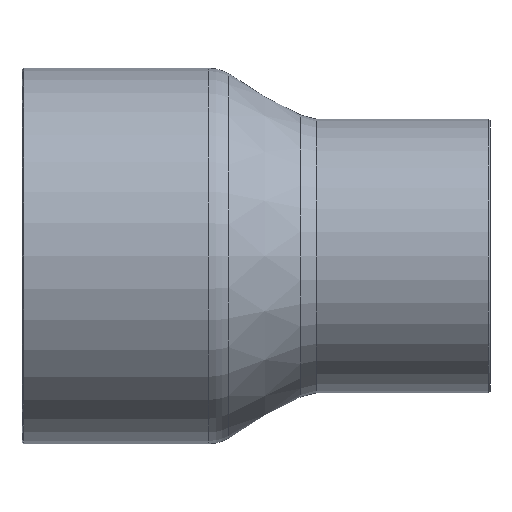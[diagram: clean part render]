
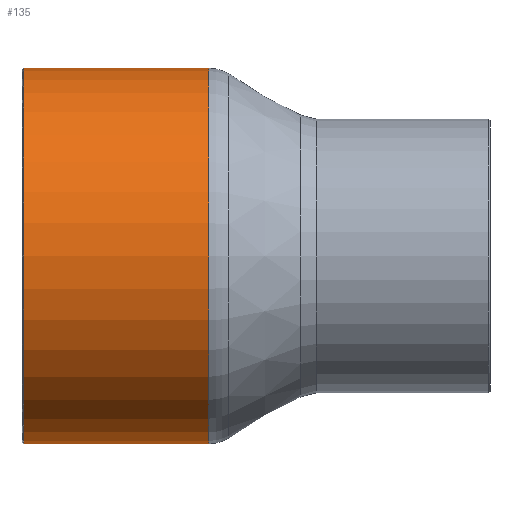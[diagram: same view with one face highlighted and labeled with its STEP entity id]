
A CAD part, front view. The second image highlights one B-rep face of the part: STEP entity #135.
In plain terms, the highlighted cylindrical face has radius 23.427 mm (diameter 46.855 mm), a full revolution.
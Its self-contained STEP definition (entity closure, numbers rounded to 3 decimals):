
#84=CARTESIAN_POINT('',(-39.,23.427,0.));
#85=VERTEX_POINT('',#84);
#86=CARTESIAN_POINT('',(-39.,0.0,0.0));
#87=DIRECTION('',(-1.0,0.0,0.0));
#88=DIRECTION('',(0.0,-1.0,0.0));
#89=AXIS2_PLACEMENT_3D('',#86,#87,#88);
#90=CIRCLE('',#89,23.427);
#91=EDGE_CURVE('',#85,#85,#90,.T.);
#116=CARTESIAN_POINT('',(-27.55,0.0,0.0));
#117=DIRECTION('',(1.0,0.0,0.0));
#118=DIRECTION('',(0.0,1.0,0.0));
#119=AXIS2_PLACEMENT_3D('',#116,#117,#118);
#120=CYLINDRICAL_SURFACE('',#119,23.427);
#121=CARTESIAN_POINT('',(-15.9,23.427,0.0));
#122=VERTEX_POINT('',#121);
#123=CARTESIAN_POINT('',(-15.9,0.0,0.0));
#124=DIRECTION('',(1.0,0.0,0.0));
#125=DIRECTION('',(0.0,1.0,0.0));
#126=AXIS2_PLACEMENT_3D('',#123,#124,#125);
#127=CIRCLE('',#126,23.427);
#128=EDGE_CURVE('',#122,#122,#127,.T.);
#129=ORIENTED_EDGE('',*,*,#128,.F.);
#130=EDGE_LOOP('',(#129));
#131=FACE_OUTER_BOUND('',#130,.T.);
#132=ORIENTED_EDGE('',*,*,#91,.F.);
#133=EDGE_LOOP('',(#132));
#134=FACE_BOUND('',#133,.T.);
#135=ADVANCED_FACE('',(#131,#134),#120,.T.);
